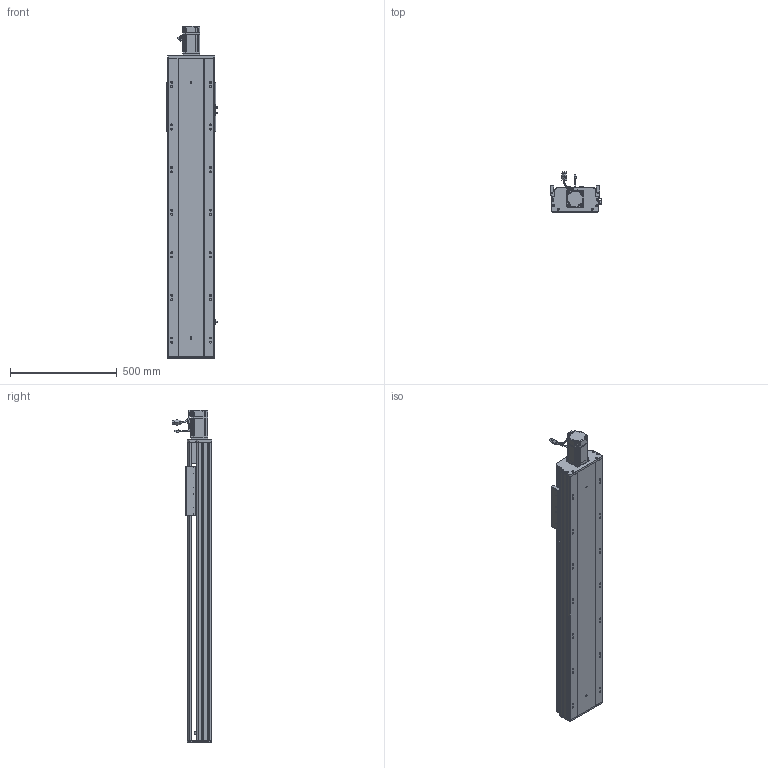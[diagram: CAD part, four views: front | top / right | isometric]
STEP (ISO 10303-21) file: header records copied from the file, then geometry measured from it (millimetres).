
FILE_DESCRIPTION (( 'STEP AP203' ), '1' );
FILE_NAME ('RY220-L2525-300-MK.SLDASM_1000.step', '2022-07-04T02:57:53', ( '' ), ( '' ), 'SwSTEP 2.0', 'SolidWorks 2016', '' );
FILE_SCHEMA (( 'CONFIG_CONTROL_DESIGN' ));
Length unit declared in the file: millimetre
Products named in the file (12): RY220ヶ裔啣; RY220半封闭25-32螺母铝滑块; RY220-俋离672覜茼んえ; 滅袉蝶18-12; RY220綴裔啣; 覜茼ん672; RY220菁釱MK-300_1000; RY220-300-奻裔啣-MK_1000; 滅袉蝶18-15; 怢湛750W_ECMA-CX0807ES; RY220电机支撑座FK20（PCD90M6）; RY220-L2525-300-MK.SLDASM_1000
Assembly tree (15 placements, depth 2):
  RY220-L2525-300-MK.SLDASM_1000
    RY220菁釱MK-300_1000
    RY220电机支撑座FK20（PCD90M6）
    怢湛750W_ECMA-CX0807ES
    滅袉蝶18-12  x2
    RY220ヶ裔啣
    RY220綴裔啣
    覜茼ん672  x3
    RY220半封闭25-32螺母铝滑块
    RY220-300-奻裔啣-MK_1000
    RY220-俋离672覜茼んえ
    滅袉蝶18-15  x2
Bounding box: 238.7 x 187.27 x 1558.3 mm (x, y, z)
Volume: 12374092.6 mm3; surface area: 3431873.4 mm2
Topology: 16 solids, 16 shells, 2214 faces, 6134 edges, 3872 vertices
Faces by surface type: cylinder 996, plane 907, cone 249, bspline 36, sphere 16, torus 10
Entity records: 72738 total; most frequent: CARTESIAN_POINT 20681, ORIENTED_EDGE 10808, DIRECTION 10219, EDGE_CURVE 5404, AXIS2_PLACEMENT_3D 3595, VERTEX_POINT 3528, VECTOR 3029, LINE 3029
